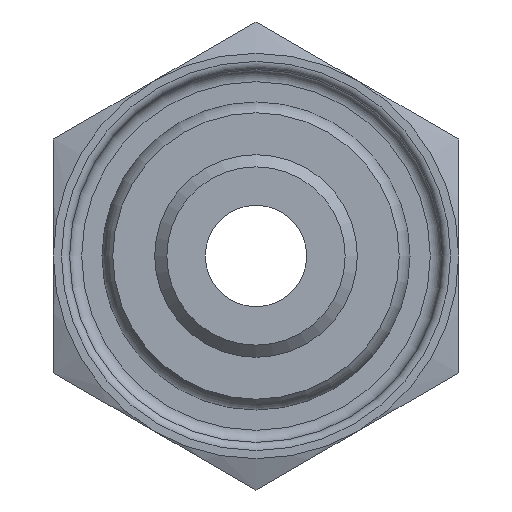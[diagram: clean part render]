
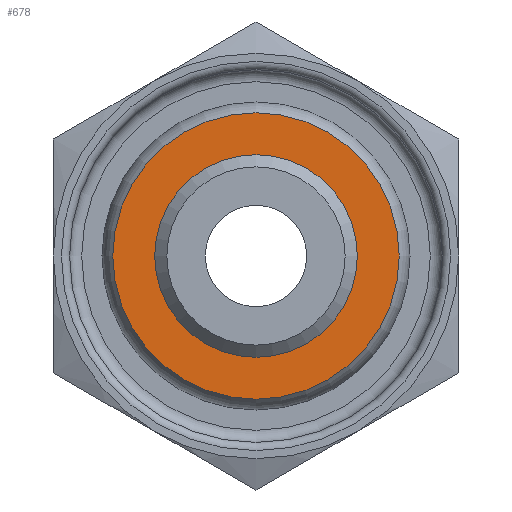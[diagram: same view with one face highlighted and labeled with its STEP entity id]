
A CAD part, front view. The second image highlights one B-rep face of the part: STEP entity #678.
In plain terms, the highlighted planar face has unit normal (0, -1, 0) as drawn and (1, 0, 0) by its records, which use the part's own axes.
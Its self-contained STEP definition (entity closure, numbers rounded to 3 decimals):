
#79=FACE_BOUND('',#205,.T.);
#96=PLANE('',#849);
#148=FACE_OUTER_BOUND('',#204,.T.);
#204=EDGE_LOOP('',(#622));
#205=EDGE_LOOP('',(#623));
#287=CIRCLE('',#843,2.267);
#289=CIRCLE('',#847,3.533);
#345=VERTEX_POINT('',#1314);
#347=VERTEX_POINT('',#1321);
#436=EDGE_CURVE('',#345,#345,#287,.T.);
#438=EDGE_CURVE('',#347,#347,#289,.T.);
#622=ORIENTED_EDGE('',*,*,#438,.T.);
#623=ORIENTED_EDGE('',*,*,#436,.F.);
#678=ADVANCED_FACE('',(#148,#79),#96,.T.);
#843=AXIS2_PLACEMENT_3D('',#1316,#1058,#1059);
#847=AXIS2_PLACEMENT_3D('',#1322,#1066,#1067);
#849=AXIS2_PLACEMENT_3D('',#1324,#1070,#1071);
#1058=DIRECTION('center_axis',(1.,0.,0.));
#1059=DIRECTION('ref_axis',(0.,1.,0.));
#1066=DIRECTION('center_axis',(1.,0.,0.));
#1067=DIRECTION('ref_axis',(0.,1.,0.));
#1070=DIRECTION('center_axis',(1.,0.,0.));
#1071=DIRECTION('ref_axis',(0.,0.,-1.));
#1314=CARTESIAN_POINT('',(0.,0.,2.267));
#1316=CARTESIAN_POINT('Origin',(0.,0.,0.));
#1321=CARTESIAN_POINT('',(0.,0.,3.533));
#1322=CARTESIAN_POINT('Origin',(0.,0.,0.));
#1324=CARTESIAN_POINT('Origin',(0.,2.584,0.));
